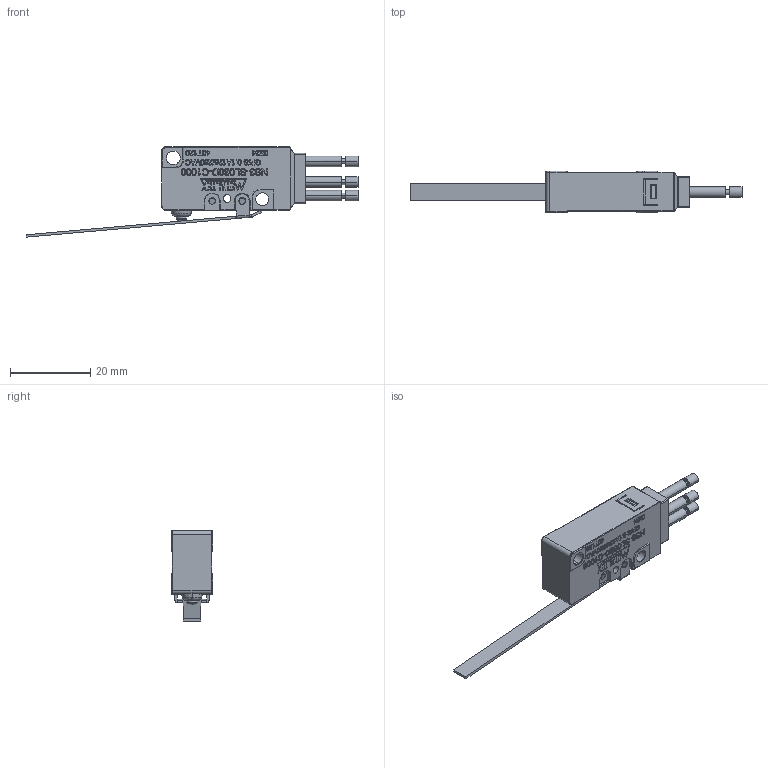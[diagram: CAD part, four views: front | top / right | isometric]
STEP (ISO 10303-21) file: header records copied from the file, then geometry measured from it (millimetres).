
FILE_DESCRIPTION(('FreeCAD Model'),'2;1');
FILE_NAME('Open CASCADE Shape Model','2026-09-24T09:43:09',(''),(''), 'Open CASCADE STEP processor 7.8','FreeCAD','Unknown');
FILE_SCHEMA(('AUTOMOTIVE_DESIGN { 1 0 10303 214 1 1 1 1 }'));
Length unit declared in the file: millimetre
Products named in the file (11): NS3-SL030D-C1000; 001; 002; 003; 004; 005; 006004; 006; 006001; 006002; 006003
Assembly tree (10 placements, depth 3):
  NS3-SL030D-C1000
    001
    002
    003
    004
    005
    006004
      006
      006001
      006002
      006003
Bounding box: 82.87 x 10.3 x 22.53 mm (x, y, z)
Volume: 333.5 mm3; surface area: 6743.3 mm2
Topology: 5 solids, 9 shells, 1938 faces, 5433 edges, 3587 vertices
Faces by surface type: plane 1072, extrusion 581, cylinder 221, torus 24, sphere 16, bspline 14, cone 10
Entity records: 66400 total; most frequent: CARTESIAN_POINT 18116, ORIENTED_EDGE 10726, DIRECTION 8002, EDGE_CURVE 5419, VECTOR 4230, LINE 3649, VERTEX_POINT 3587, FACE_BOUND 2092
